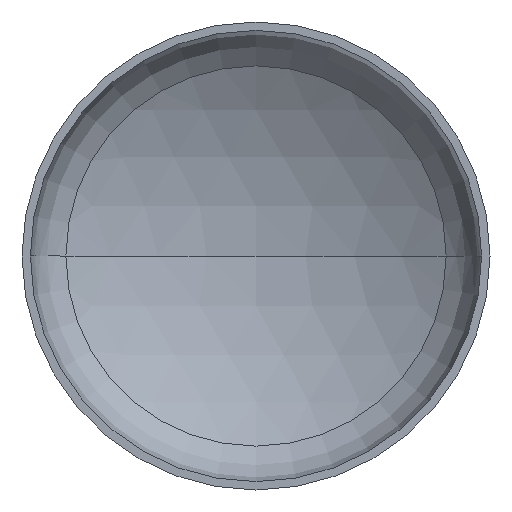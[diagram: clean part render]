
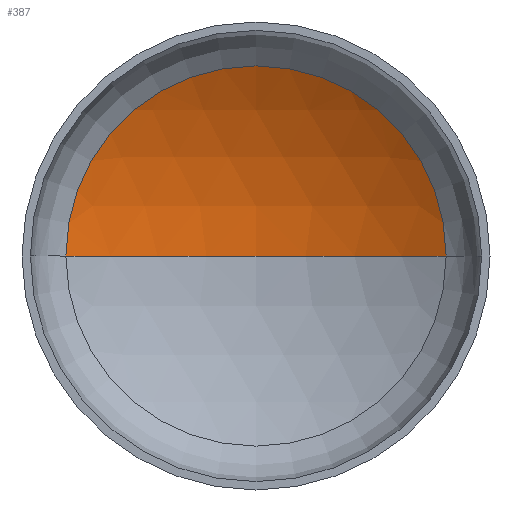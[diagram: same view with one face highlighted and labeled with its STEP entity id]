
A CAD part, front view. The second image highlights one B-rep face of the part: STEP entity #387.
In plain terms, the highlighted spherical face has radius 1920 mm.
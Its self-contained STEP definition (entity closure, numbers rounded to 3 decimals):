
#20 = DIRECTION ( 'NONE',  ( 1., 0., 0. ) ) ;
#46 = CIRCLE ( 'NONE', #82, 1920. ) ;
#52 = ORIENTED_EDGE ( 'NONE', *, *, #147, .T. ) ;
#67 = VERTEX_POINT ( 'NONE', #266 ) ;
#68 = CARTESIAN_POINT ( 'NONE',  ( 0., 714.661, 0. ) ) ;
#82 = AXIS2_PLACEMENT_3D ( 'NONE', #156, #181, #205 ) ;
#84 = AXIS2_PLACEMENT_3D ( 'NONE', #327, #188, #115 ) ;
#86 = AXIS2_PLACEMENT_3D ( 'NONE', #301, #370, #20 ) ;
#106 = SPHERICAL_SURFACE ( 'NONE', #135, 1920. ) ;
#109 = EDGE_LOOP ( 'NONE', ( #142, #396, #52 ) ) ;
#115 = DIRECTION ( 'NONE',  ( -1., 0., 0. ) ) ;
#122 = DIRECTION ( 'NONE',  ( 0., 0., -1. ) ) ;
#125 = DIRECTION ( 'NONE',  ( -1., 0., 0. ) ) ;
#135 = AXIS2_PLACEMENT_3D ( 'NONE', #150, #122, #125 ) ;
#142 = ORIENTED_EDGE ( 'NONE', *, *, #152, .F. ) ;
#147 = EDGE_CURVE ( 'NONE', #241, #67, #305, .T. ) ;
#150 = CARTESIAN_POINT ( 'NONE',  ( 0., -1205.339, 0. ) ) ;
#151 = EDGE_CURVE ( 'NONE', #410, #241, #248, .T. ) ;
#152 = EDGE_CURVE ( 'NONE', #410, #67, #46, .T. ) ;
#156 = CARTESIAN_POINT ( 'NONE',  ( 0., -1205.339, 0. ) ) ;
#181 = DIRECTION ( 'NONE',  ( 0., 0., 1. ) ) ;
#188 = DIRECTION ( 'NONE',  ( 0., 0., -1. ) ) ;
#190 = FACE_OUTER_BOUND ( 'NONE', #109, .T. ) ;
#205 = DIRECTION ( 'NONE',  ( 1., 0., 0. ) ) ;
#241 = VERTEX_POINT ( 'NONE', #249 ) ;
#248 = CIRCLE ( 'NONE', #84, 1920. ) ;
#249 = CARTESIAN_POINT ( 'NONE',  ( 974.865, 448.758, 0. ) ) ;
#266 = CARTESIAN_POINT ( 'NONE',  ( -974.865, 448.758, 0. ) ) ;
#301 = CARTESIAN_POINT ( 'NONE',  ( 0., 448.758, 0. ) ) ;
#305 = CIRCLE ( 'NONE', #86, 974.865 ) ;
#327 = CARTESIAN_POINT ( 'NONE',  ( 0., -1205.339, 0. ) ) ;
#370 = DIRECTION ( 'NONE',  ( 0., -1., 0. ) ) ;
#387 = ADVANCED_FACE ( 'NONE', ( #190 ), #106, .F. ) ;
#396 = ORIENTED_EDGE ( 'NONE', *, *, #151, .T. ) ;
#410 = VERTEX_POINT ( 'NONE', #68 ) ;
